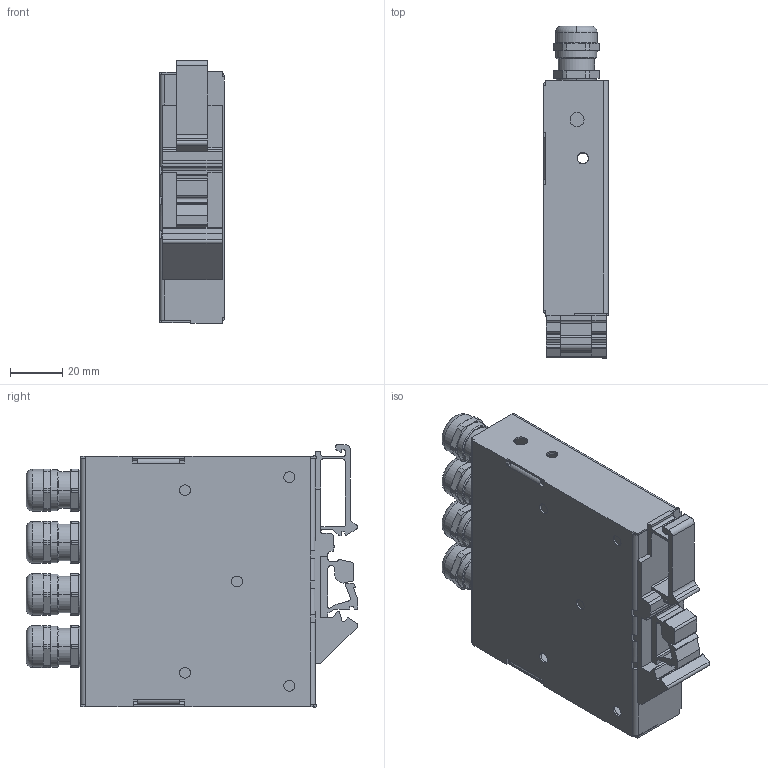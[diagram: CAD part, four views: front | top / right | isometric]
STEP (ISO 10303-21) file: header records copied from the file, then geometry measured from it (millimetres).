
FILE_DESCRIPTION((''),'2;1');
FILE_NAME('2013636','2013-08-22T',('thampe'),(''),'PRO/ENGINEER BY PARAMETRIC TECHNOLOGY CORPORATION, 2011040','PRO/ENGINEER BY PARAMETRIC TECHNOLOGY CORPORATION, 2011040','');
FILE_SCHEMA(('AUTOMOTIVE_DESIGN_CC2 { 1 2 10303 214 -1 1 5 2 }'));
Length unit declared in the file: millimetre
Products named in the file (1): 2013636
Bounding box: 24.8 x 127.2 x 100.8 mm (x, y, z)
Volume: 49400.4 mm3; surface area: 64395 mm2
Topology: 1 solids, 1 shells, 957 faces, 2546 edges, 1634 vertices
Faces by surface type: plane 449, cylinder 292, cone 200, torus 16
Entity records: 31663 total; most frequent: CARTESIAN_POINT 7222, ORIENTED_EDGE 5092, DIRECTION 5066, EDGE_CURVE 2546, AXIS2_PLACEMENT_3D 1860, VERTEX_POINT 1634, VECTOR 1346, LINE 1346
